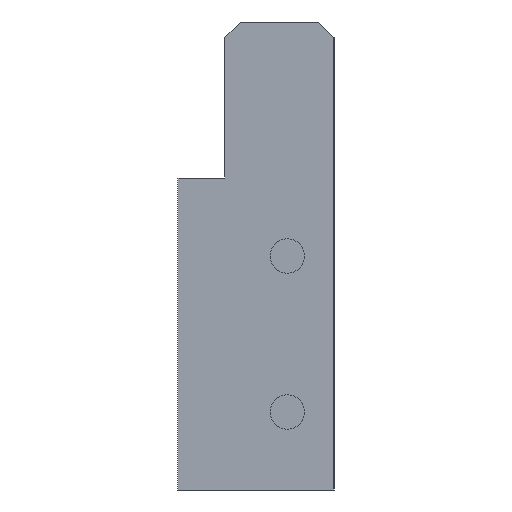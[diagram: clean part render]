
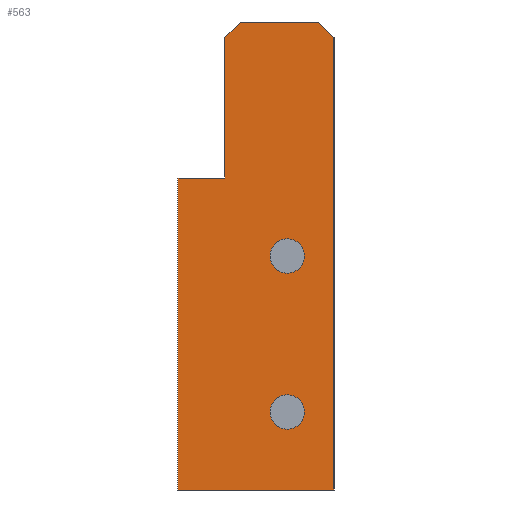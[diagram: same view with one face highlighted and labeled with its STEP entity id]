
A CAD part, left-side view. The second image highlights one B-rep face of the part: STEP entity #563.
In plain terms, the highlighted planar face has unit normal (-1, 0, 0).
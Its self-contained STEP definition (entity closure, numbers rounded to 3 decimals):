
#281=AXIS2_PLACEMENT_3D('Circle Axis2P3D',#279,#280,$) ;
#305=AXIS2_PLACEMENT_3D('Circle Axis2P3D',#303,#304,$) ;
#343=AXIS2_PLACEMENT_3D('Circle Axis2P3D',#341,#342,$) ;
#367=AXIS2_PLACEMENT_3D('Circle Axis2P3D',#365,#366,$) ;
#538=AXIS2_PLACEMENT_3D('Plane Axis2P3D',#535,#536,#537) ;
#41=CARTESIAN_POINT('Vertex',(0.,0.,-30.)) ;
#46=CARTESIAN_POINT('Line Origine',(0.,5.,-30.)) ;
#50=CARTESIAN_POINT('Vertex',(0.,10.,-30.)) ;
#77=CARTESIAN_POINT('Line Origine',(0.,10.,-20.)) ;
#81=CARTESIAN_POINT('Vertex',(0.,10.,-10.)) ;
#108=CARTESIAN_POINT('Line Origine',(0.,8.5,-10.)) ;
#112=CARTESIAN_POINT('Vertex',(0.,7.,-10.)) ;
#276=CARTESIAN_POINT('Vertex',(0.,1.9,-25.)) ;
#279=CARTESIAN_POINT('Axis2P3D Location',(0.,3.,-25.)) ;
#283=CARTESIAN_POINT('Vertex',(0.,4.1,-25.)) ;
#303=CARTESIAN_POINT('Axis2P3D Location',(0.,3.,-25.)) ;
#338=CARTESIAN_POINT('Vertex',(0.,1.9,-15.)) ;
#341=CARTESIAN_POINT('Axis2P3D Location',(0.,3.,-15.)) ;
#345=CARTESIAN_POINT('Vertex',(0.,4.1,-15.)) ;
#365=CARTESIAN_POINT('Axis2P3D Location',(0.,3.,-15.)) ;
#394=CARTESIAN_POINT('Line Origine',(0.,7.,-5.5)) ;
#398=CARTESIAN_POINT('Vertex',(0.,7.,-1.)) ;
#425=CARTESIAN_POINT('Line Origine',(0.,6.5,-0.5)) ;
#429=CARTESIAN_POINT('Vertex',(0.,6.,0.)) ;
#449=CARTESIAN_POINT('Line Origine',(0.,0.,-15.5)) ;
#453=CARTESIAN_POINT('Vertex',(0.,0.,-1.)) ;
#487=CARTESIAN_POINT('Line Origine',(0.,3.5,0.)) ;
#491=CARTESIAN_POINT('Vertex',(0.,1.,0.)) ;
#535=CARTESIAN_POINT('Axis2P3D Location',(0.,0.,0.)) ;
#540=CARTESIAN_POINT('Line Origine',(0.,0.5,-0.5)) ;
#47=DIRECTION('Vector Direction',(0.,1.,0.)) ;
#78=DIRECTION('Vector Direction',(0.,0.,1.)) ;
#109=DIRECTION('Vector Direction',(0.,-1.,0.)) ;
#280=DIRECTION('Axis2P3D Direction',(1.,0.,0.)) ;
#304=DIRECTION('Axis2P3D Direction',(1.,0.,0.)) ;
#342=DIRECTION('Axis2P3D Direction',(1.,0.,0.)) ;
#366=DIRECTION('Axis2P3D Direction',(1.,0.,0.)) ;
#395=DIRECTION('Vector Direction',(0.,0.,1.)) ;
#426=DIRECTION('Vector Direction',(0.,0.707,-0.707)) ;
#450=DIRECTION('Vector Direction',(0.,0.,-1.)) ;
#488=DIRECTION('Vector Direction',(0.,-1.,0.)) ;
#536=DIRECTION('Axis2P3D Direction',(1.,0.,0.)) ;
#537=DIRECTION('Axis2P3D XDirection',(0.,1.,0.)) ;
#541=DIRECTION('Vector Direction',(0.,0.707,0.707)) ;
#48=VECTOR('Line Direction',#47,1.) ;
#79=VECTOR('Line Direction',#78,1.) ;
#110=VECTOR('Line Direction',#109,1.) ;
#396=VECTOR('Line Direction',#395,1.) ;
#427=VECTOR('Line Direction',#426,1.) ;
#451=VECTOR('Line Direction',#450,1.) ;
#489=VECTOR('Line Direction',#488,1.) ;
#542=VECTOR('Line Direction',#541,1.) ;
#546=ORIENTED_EDGE('',*,*,#544,.F.) ;
#547=ORIENTED_EDGE('',*,*,#493,.F.) ;
#548=ORIENTED_EDGE('',*,*,#431,.F.) ;
#549=ORIENTED_EDGE('',*,*,#400,.F.) ;
#550=ORIENTED_EDGE('',*,*,#114,.F.) ;
#551=ORIENTED_EDGE('',*,*,#83,.F.) ;
#552=ORIENTED_EDGE('',*,*,#52,.F.) ;
#553=ORIENTED_EDGE('',*,*,#455,.F.) ;
#556=ORIENTED_EDGE('',*,*,#369,.T.) ;
#557=ORIENTED_EDGE('',*,*,#347,.T.) ;
#560=ORIENTED_EDGE('',*,*,#307,.T.) ;
#561=ORIENTED_EDGE('',*,*,#285,.T.) ;
#558=FACE_BOUND('',#555,.T.) ;
#562=FACE_BOUND('',#559,.T.) ;
#563=ADVANCED_FACE('\X2\96F64EF651E04F554F53\X0\',(#554,#558,#562),#539,.F.) ;
#282=CIRCLE('generated circle',#281,1.1) ;
#306=CIRCLE('generated circle',#305,1.1) ;
#344=CIRCLE('generated circle',#343,1.1) ;
#368=CIRCLE('generated circle',#367,1.1) ;
#52=EDGE_CURVE('',#42,#51,#49,.T.) ;
#83=EDGE_CURVE('',#51,#82,#80,.T.) ;
#114=EDGE_CURVE('',#82,#113,#111,.T.) ;
#285=EDGE_CURVE('',#284,#277,#282,.T.) ;
#307=EDGE_CURVE('',#277,#284,#306,.T.) ;
#347=EDGE_CURVE('',#346,#339,#344,.T.) ;
#369=EDGE_CURVE('',#339,#346,#368,.T.) ;
#400=EDGE_CURVE('',#113,#399,#397,.T.) ;
#431=EDGE_CURVE('',#399,#430,#428,.F.) ;
#455=EDGE_CURVE('',#454,#42,#452,.T.) ;
#493=EDGE_CURVE('',#430,#492,#490,.T.) ;
#544=EDGE_CURVE('',#492,#454,#543,.F.) ;
#545=EDGE_LOOP('',(#546,#547,#548,#549,#550,#551,#552,#553)) ;
#555=EDGE_LOOP('',(#556,#557)) ;
#559=EDGE_LOOP('',(#560,#561)) ;
#554=FACE_OUTER_BOUND('',#545,.T.) ;
#49=LINE('Line',#46,#48) ;
#80=LINE('Line',#77,#79) ;
#111=LINE('Line',#108,#110) ;
#397=LINE('Line',#394,#396) ;
#428=LINE('Line',#425,#427) ;
#452=LINE('Line',#449,#451) ;
#490=LINE('Line',#487,#489) ;
#543=LINE('Line',#540,#542) ;
#539=PLANE('',#538) ;
#42=VERTEX_POINT('',#41) ;
#51=VERTEX_POINT('',#50) ;
#82=VERTEX_POINT('',#81) ;
#113=VERTEX_POINT('',#112) ;
#277=VERTEX_POINT('',#276) ;
#284=VERTEX_POINT('',#283) ;
#339=VERTEX_POINT('',#338) ;
#346=VERTEX_POINT('',#345) ;
#399=VERTEX_POINT('',#398) ;
#430=VERTEX_POINT('',#429) ;
#454=VERTEX_POINT('',#453) ;
#492=VERTEX_POINT('',#491) ;
